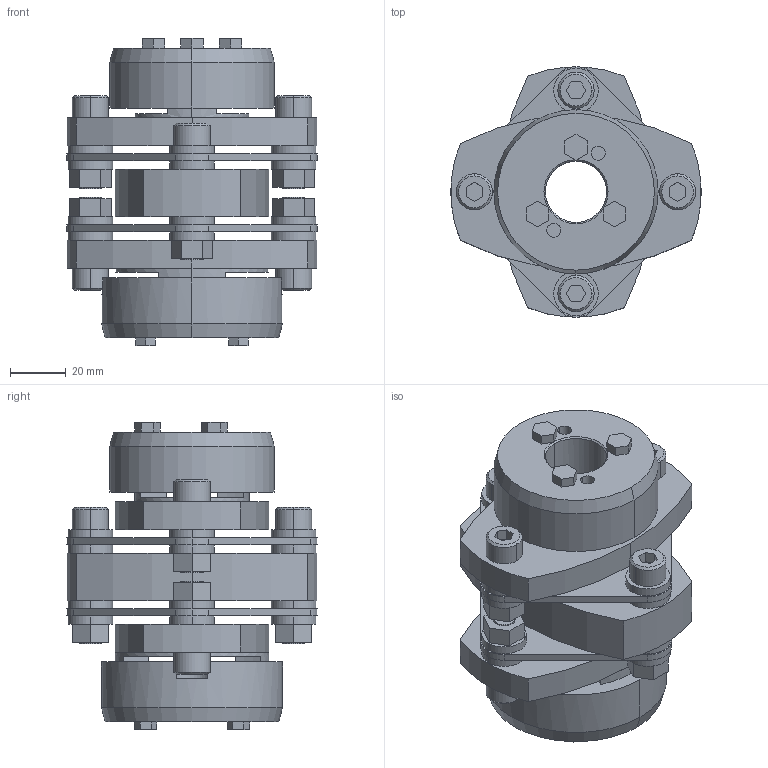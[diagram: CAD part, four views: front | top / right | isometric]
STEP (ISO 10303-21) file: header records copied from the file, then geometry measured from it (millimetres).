
FILE_DESCRIPTION((''),'2;1');
FILE_NAME('LCD-90T7-22×35.stp','2011-09-12T08:31:41',(''),(''),'AutoCAD STEP 2000i','AutoCAD 2000i',', , ');
FILE_SCHEMA(('CONFIG_CONTROL_DESIGN'));
Length unit declared in the file: millimetre
Products named in the file (9): LCD-90T7-19×35; 忣兜1; LC90T7-T035; LC90T7-T032; LC90T7-T030; LC90T7-T025; LC90T7-T019-1; LC90T7-T019; LCD90-ITA
Assembly tree (8 placements, depth 2):
  LCD-90T7-19×35
    忣兜1
    LC90T7-T035
    LC90T7-T032
    LC90T7-T030
    LC90T7-T025
    LC90T7-T019-1
    LC90T7-T019
    LCD90-ITA
Bounding box: 90 x 89.94 x 110.3 mm (x, y, z)
Volume: 267249.9 mm3; surface area: 74250.5 mm2
Topology: 1 solids, 1 shells, 335 faces, 822 edges, 536 vertices
Faces by surface type: plane 189, cylinder 122, cone 24
Entity records: 10161 total; most frequent: DIRECTION 1804, CARTESIAN_POINT 1702, ORIENTED_EDGE 1644, EDGE_CURVE 822, AXIS2_PLACEMENT_3D 638, VERTEX_POINT 536, VECTOR 528, LINE 528
